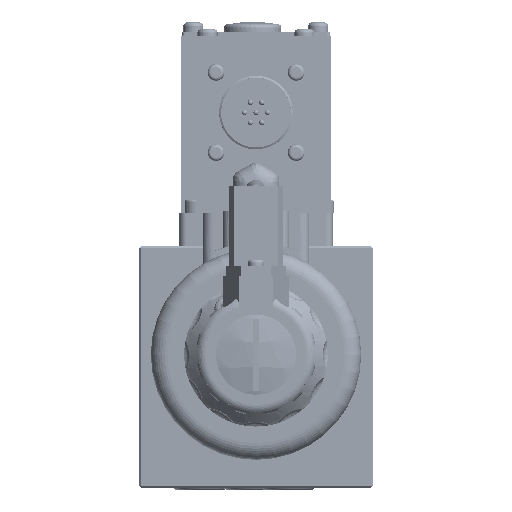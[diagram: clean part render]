
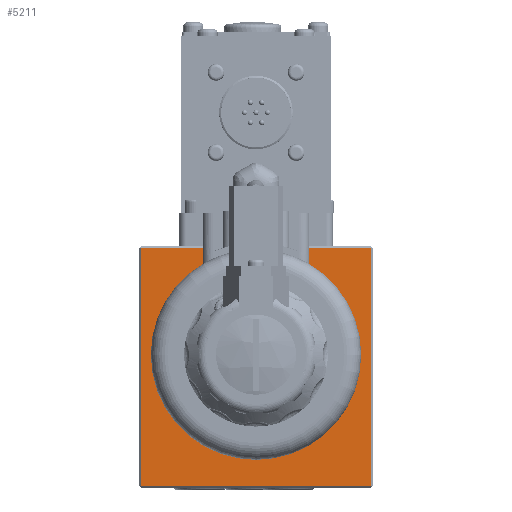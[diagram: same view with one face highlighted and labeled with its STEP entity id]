
A CAD part, left-side view. The second image highlights one B-rep face of the part: STEP entity #5211.
In plain terms, the highlighted planar face has unit normal (-1, 0, 0).
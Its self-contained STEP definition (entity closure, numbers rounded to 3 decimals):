
#5211=ADVANCED_FACE('',(#7837,#7838,#7839,#7840,#7841,#7842),#6278,.T.);
#6278=PLANE('',#28587);
#7365=CIRCLE('',#28582,3.25);
#7366=CIRCLE('',#28583,1.8);
#7367=CIRCLE('',#28584,1.8);
#7368=CIRCLE('',#28585,1.8);
#7369=CIRCLE('',#28586,16.);
#7837=FACE_BOUND('',#9165,.T.);
#7838=FACE_BOUND('',#9166,.T.);
#7839=FACE_BOUND('',#9167,.T.);
#7840=FACE_BOUND('',#9168,.T.);
#7841=FACE_BOUND('',#9169,.T.);
#7842=FACE_BOUND('',#9170,.T.);
#9165=EDGE_LOOP('',(#14320));
#9166=EDGE_LOOP('',(#14321,#14322,#14323,#14324));
#9167=EDGE_LOOP('',(#14325));
#9168=EDGE_LOOP('',(#14326));
#9169=EDGE_LOOP('',(#14327));
#9170=EDGE_LOOP('',(#14328));
#14320=ORIENTED_EDGE('',*,*,#21627,.T.);
#14321=ORIENTED_EDGE('',*,*,#21628,.T.);
#14322=ORIENTED_EDGE('',*,*,#21629,.T.);
#14323=ORIENTED_EDGE('',*,*,#21630,.T.);
#14324=ORIENTED_EDGE('',*,*,#21631,.T.);
#14325=ORIENTED_EDGE('',*,*,#21632,.T.);
#14326=ORIENTED_EDGE('',*,*,#21633,.T.);
#14327=ORIENTED_EDGE('',*,*,#21634,.T.);
#14328=ORIENTED_EDGE('',*,*,#21635,.T.);
#18468=VERTEX_POINT('',#85946);
#18469=VERTEX_POINT('',#85948);
#18470=VERTEX_POINT('',#85949);
#18471=VERTEX_POINT('',#85951);
#18472=VERTEX_POINT('',#85953);
#18473=VERTEX_POINT('',#85956);
#18474=VERTEX_POINT('',#85958);
#18475=VERTEX_POINT('',#85960);
#18476=VERTEX_POINT('',#85962);
#21627=EDGE_CURVE('',#18468,#18468,#7365,.T.);
#21628=EDGE_CURVE('',#18469,#18470,#24088,.T.);
#21629=EDGE_CURVE('',#18470,#18471,#24089,.T.);
#21630=EDGE_CURVE('',#18471,#18472,#24090,.T.);
#21631=EDGE_CURVE('',#18472,#18469,#24091,.T.);
#21632=EDGE_CURVE('',#18473,#18473,#7366,.T.);
#21633=EDGE_CURVE('',#18474,#18474,#7367,.T.);
#21634=EDGE_CURVE('',#18475,#18475,#7368,.T.);
#21635=EDGE_CURVE('',#18476,#18476,#7369,.T.);
#24088=LINE('',#85947,#26094);
#24089=LINE('',#85950,#26095);
#24090=LINE('',#85952,#26096);
#24091=LINE('',#85954,#26097);
#26094=VECTOR('',#33734,1.);
#26095=VECTOR('',#33735,1.);
#26096=VECTOR('',#33736,1.);
#26097=VECTOR('',#33737,1.);
#28582=AXIS2_PLACEMENT_3D('',#85945,#33732,#33733);
#28583=AXIS2_PLACEMENT_3D('',#85955,#33738,#33739);
#28584=AXIS2_PLACEMENT_3D('',#85957,#33740,#33741);
#28585=AXIS2_PLACEMENT_3D('',#85959,#33742,#33743);
#28586=AXIS2_PLACEMENT_3D('',#85961,#33744,#33745);
#28587=AXIS2_PLACEMENT_3D('',#85963,#33746,#33747);
#33732=DIRECTION('',(1.,0.,0.));
#33733=DIRECTION('',(0.,0.,-1.));
#33734=DIRECTION('',(0.,1.,0.));
#33735=DIRECTION('',(0.,0.,-1.));
#33736=DIRECTION('',(0.,-1.,0.));
#33737=DIRECTION('',(0.,0.,1.));
#33738=DIRECTION('',(1.,0.,0.));
#33739=DIRECTION('',(0.,0.,-1.));
#33740=DIRECTION('',(1.,0.,0.));
#33741=DIRECTION('',(0.,0.,-1.));
#33742=DIRECTION('',(1.,0.,0.));
#33743=DIRECTION('',(0.,0.,-1.));
#33744=DIRECTION('',(1.,0.,0.));
#33745=DIRECTION('',(0.,0.,1.));
#33746=DIRECTION('',(-1.,0.,0.));
#33747=DIRECTION('',(0.,0.,-1.));
#85945=CARTESIAN_POINT('',(94.,-22.996,-17.));
#85946=CARTESIAN_POINT('',(94.,-22.996,-20.25));
#85947=CARTESIAN_POINT('',(94.,0.,-0.7));
#85948=CARTESIAN_POINT('',(94.,-69.3,-0.7));
#85949=CARTESIAN_POINT('',(94.,-0.7,-0.7));
#85950=CARTESIAN_POINT('',(94.,-0.7,-72.5));
#85951=CARTESIAN_POINT('',(94.,-0.7,-71.8));
#85952=CARTESIAN_POINT('',(94.,-70.,-71.8));
#85953=CARTESIAN_POINT('',(94.,-69.3,-71.8));
#85954=CARTESIAN_POINT('',(94.,-69.3,-72.5));
#85955=CARTESIAN_POINT('',(94.,-16.,-32.5));
#85956=CARTESIAN_POINT('',(94.,-16.,-34.3));
#85957=CARTESIAN_POINT('',(94.,-54.,-32.5));
#85958=CARTESIAN_POINT('',(94.,-54.,-34.3));
#85959=CARTESIAN_POINT('',(94.,-35.,-51.5));
#85960=CARTESIAN_POINT('',(94.,-35.,-53.3));
#85961=CARTESIAN_POINT('',(94.,-35.,-32.5));
#85962=CARTESIAN_POINT('',(94.,-35.,-16.5));
#85963=CARTESIAN_POINT('',(94.,0.,-72.5));
